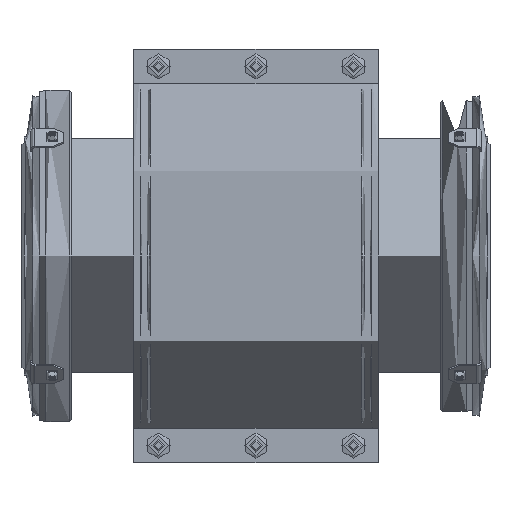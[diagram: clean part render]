
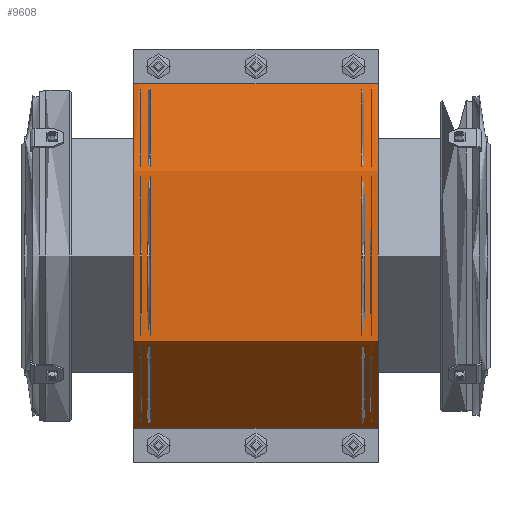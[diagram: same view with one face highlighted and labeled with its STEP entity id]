
A CAD part, front view. The second image highlights one B-rep face of the part: STEP entity #9608.
In plain terms, the highlighted cylindrical face has radius 79.5 mm (diameter 159 mm), a partial arc.
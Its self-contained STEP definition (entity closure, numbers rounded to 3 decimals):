
#9608=ADVANCED_FACE('',(#29795),#29797,.T.);
#29795=FACE_BOUND('',#29796,.T.);
#29796=EDGE_LOOP('',(#41676,#41677,#41678,#41679,#41680,#41681,#41682,#41683,#41684,
#41685));
#29797=CYLINDRICAL_SURFACE('',#29798,79.5);
#29798=AXIS2_PLACEMENT_3D('',#29799,#29800,#29801);
#29799=CARTESIAN_POINT('',(56.5,0.,-0.));
#29800=DIRECTION('',(-1.,0.,0.));
#29801=DIRECTION('',(0.,0.,-1.));
#41676=ORIENTED_EDGE('',*,*,#47549,.T.);
#41677=ORIENTED_EDGE('',*,*,#47642,.T.);
#41678=ORIENTED_EDGE('',*,*,#47541,.T.);
#41679=ORIENTED_EDGE('',*,*,#47634,.T.);
#41680=ORIENTED_EDGE('',*,*,#47643,.F.);
#41681=ORIENTED_EDGE('',*,*,#47610,.T.);
#41682=ORIENTED_EDGE('',*,*,#47630,.T.);
#41683=ORIENTED_EDGE('',*,*,#47616,.T.);
#41684=ORIENTED_EDGE('',*,*,#47644,.T.);
#41685=ORIENTED_EDGE('',*,*,#47621,.T.);
#47541=EDGE_CURVE('',#52405,#52403,#52406,.T.);
#47549=EDGE_CURVE('',#52419,#52417,#52420,.F.);
#47610=EDGE_CURVE('',#52516,#52353,#52517,.F.);
#47616=EDGE_CURVE('',#52345,#52524,#52526,.F.);
#47621=EDGE_CURVE('',#52532,#52419,#52533,.T.);
#47630=EDGE_CURVE('',#52353,#52345,#52547,.F.);
#47634=EDGE_CURVE('',#52403,#52551,#52553,.T.);
#47642=EDGE_CURVE('',#52417,#52405,#52566,.T.);
#47643=EDGE_CURVE('',#52516,#52551,#52567,.T.);
#47644=EDGE_CURVE('',#52524,#52532,#52568,.T.);
#52345=VERTEX_POINT('',#67011);
#52353=VERTEX_POINT('',#67029);
#52403=VERTEX_POINT('',#67194);
#52405=VERTEX_POINT('',#67198);
#52406=CIRCLE('',#67199,79.5);
#52417=VERTEX_POINT('',#67225);
#52419=VERTEX_POINT('',#67229);
#52420=CIRCLE('',#67230,79.5);
#52516=VERTEX_POINT('',#69221);
#52517=LINE('',#69222,#69223);
#52524=VERTEX_POINT('',#69239);
#52526=LINE('',#69243,#69244);
#52532=VERTEX_POINT('',#69261);
#52533=LINE('',#69262,#69263);
#52547=LINE('',#69294,#69295);
#52551=VERTEX_POINT('',#69304);
#52553=LINE('',#69308,#69309);
#52566=LINE('',#69339,#69340);
#52567=CIRCLE('',#69342,79.5);
#52568=CIRCLE('',#69346,79.5);
#67011=CARTESIAN_POINT('',(54.,-1.,-79.494));
#67029=CARTESIAN_POINT('',(-54.,-1.,-79.494));
#67194=CARTESIAN_POINT('',(-54.,-1.,79.494));
#67198=CARTESIAN_POINT('',(-54.,-2.,79.475));
#67199=AXIS2_PLACEMENT_3D('',#67200,#67201,#67202);
#67200=CARTESIAN_POINT('',(-54.,0.,0.));
#67201=DIRECTION('',(-1.,0.,0.));
#67202=DIRECTION('',(0.,-0.025,1.));
#67225=CARTESIAN_POINT('',(54.,-2.,79.475));
#67229=CARTESIAN_POINT('',(54.,-1.,79.494));
#67230=AXIS2_PLACEMENT_3D('',#67231,#67232,#67233);
#67231=CARTESIAN_POINT('',(54.,0.,0.));
#67232=DIRECTION('',(-1.,0.,0.));
#67233=DIRECTION('',(0.,-0.025,1.));
#69221=CARTESIAN_POINT('',(-56.5,-1.,-79.494));
#69222=CARTESIAN_POINT('',(-54.,-1.,-79.494));
#69223=VECTOR('',#69224,1.);
#69224=DIRECTION('',(-1.,0.,0.));
#69239=CARTESIAN_POINT('',(56.5,-1.,-79.494));
#69243=CARTESIAN_POINT('',(56.5,-1.,-79.494));
#69244=VECTOR('',#69245,1.);
#69245=DIRECTION('',(-1.,0.,0.));
#69261=CARTESIAN_POINT('',(56.5,-1.,79.494));
#69262=CARTESIAN_POINT('',(56.5,-1.,79.494));
#69263=VECTOR('',#69264,1.);
#69264=DIRECTION('',(-1.,0.,0.));
#69294=CARTESIAN_POINT('',(54.,-1.,-79.494));
#69295=VECTOR('',#69296,1.);
#69296=DIRECTION('',(-1.,0.,0.));
#69304=CARTESIAN_POINT('',(-56.5,-1.,79.494));
#69308=CARTESIAN_POINT('',(-54.,-1.,79.494));
#69309=VECTOR('',#69310,1.);
#69310=DIRECTION('',(-1.,0.,0.));
#69339=CARTESIAN_POINT('',(54.,-2.,79.475));
#69340=VECTOR('',#69341,1.);
#69341=DIRECTION('',(-1.,0.,0.));
#69342=AXIS2_PLACEMENT_3D('',#69343,#69344,#69345);
#69343=CARTESIAN_POINT('',(-56.5,0.,0.));
#69344=DIRECTION('',(-1.,0.,0.));
#69345=DIRECTION('',(0.,-0.013,-1.));
#69346=AXIS2_PLACEMENT_3D('',#69347,#69348,#69349);
#69347=CARTESIAN_POINT('',(56.5,0.,0.));
#69348=DIRECTION('',(-1.,0.,0.));
#69349=DIRECTION('',(0.,-0.013,-1.));
